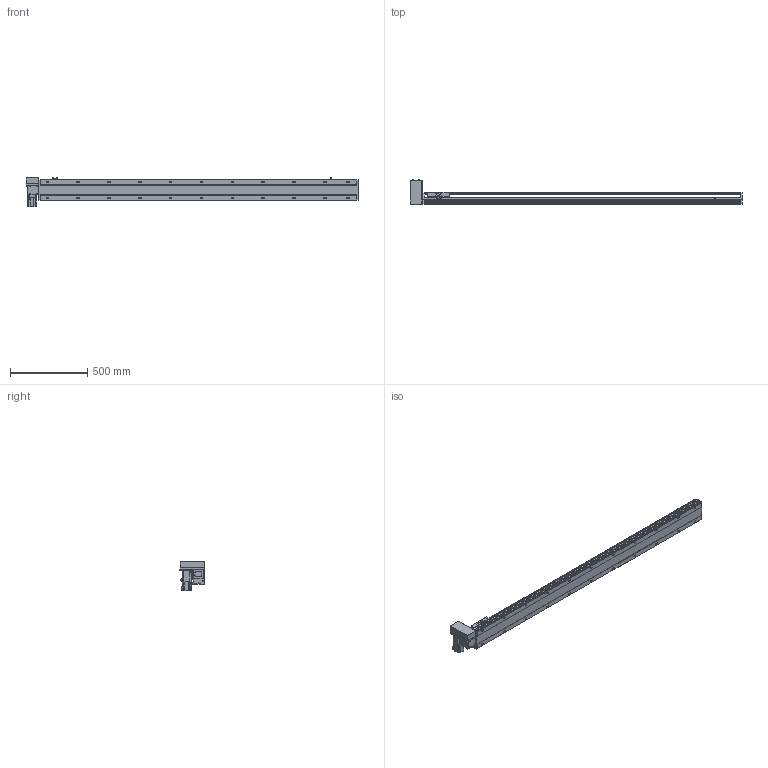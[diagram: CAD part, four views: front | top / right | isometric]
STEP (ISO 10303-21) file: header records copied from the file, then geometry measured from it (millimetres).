
FILE_DESCRIPTION( ( 'STEP AP214' ), '1' );
FILE_NAME( 'x:/temp/worker_1/temp/exporttempdir_5824_149_U1rQz/format_0/PBS140-P40-S1800-RU-T40-C1-N(0).stp', '2022-06-07T05:55:40', ( 'License CC BY-ND 4.0' ), ( 'CADENAS' ), ' ', 'PARTsolutions', ' ' );
FILE_SCHEMA( ( 'AUTOMOTIVE_DESIGN { 1 0 10303 214 1 1 1 1 }' ) );
Length unit declared in the file: millimetre
Products named in the file (7): PBS140-P40-S1800-RU-T40-C1-N(0); _PBS140-S1800()_body; _PBS140T-RU_motors; _T40-p1; _PBS140_sliser; _PBS140_plant; _PBS140_sensor
Assembly tree (8 placements, depth 2):
  PBS140-P40-S1800-RU-T40-C1-N(0)
    _PBS140-S1800()_body
    _PBS140T-RU_motors
    _T40-p1
    _PBS140_sliser
    _PBS140_plant
    _PBS140_sensor  x3
Bounding box: 2154 x 162.5 x 189.7 mm (x, y, z)
Volume: 9866719.5 mm3; surface area: 1694371.2 mm2
Topology: 8 solids, 8 shells, 1123 faces, 2956 edges, 1931 vertices
Faces by surface type: plane 710, cylinder 355, cone 48, sphere 8, torus 2
Full cylindrical faces by diameter (mm): 3.242 x4, 4 x2, 4.134 x4, 4.4 x8, 4.5 x2, 4.8 x4, 4.917 x30, 5.5 x7, 6 x2, 7 x24, 7.5 x8, 8 x12, 8.5 x4, 10.5 x22, 14 x1, 30 x2, 50 x2
Entity records: 41215 total; most frequent: CARTESIAN_POINT 6755, DIRECTION 5407, ORIENTED_EDGE 5092, EDGE_CURVE 2546, AXIS2_PLACEMENT_3D 1897, VERTEX_POINT 1773, LINE 1613, VECTOR 1613
